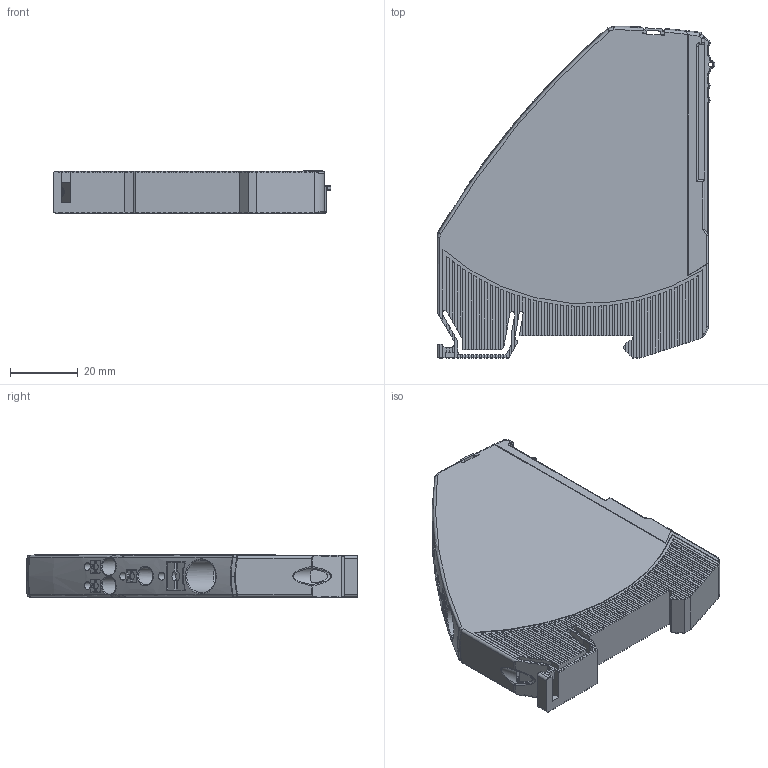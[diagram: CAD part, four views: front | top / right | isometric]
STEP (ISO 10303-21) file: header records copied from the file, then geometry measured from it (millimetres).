
FILE_DESCRIPTION((''),'2;1');
FILE_NAME('1694-PFA1244_ASM','2020-04-23T09:42:40',('AKuszpe'),('Rockwell Automation'),'CREO PARAMETRIC BY PTC INC, 2017380','CREO PARAMETRIC BY PTC INC, 2017380','');
FILE_SCHEMA(('AUTOMOTIVE_DESIGN { 1 0 10303 214 1 1 1 1 }'));
Length unit declared in the file: millimetre
Products named in the file (2): 1694-PFA1244; 1694-PFA1244_ASM
Assembly tree (1 placements, depth 2):
  1694-PFA1244_ASM
    1694-PFA1244
Bounding box: 81.9 x 97.95 x 12.4 mm (x, y, z)
Volume: 70904.5 mm3; surface area: 19854.3 mm2
Topology: 1 solids, 1 shells, 1038 faces, 3007 edges, 1972 vertices
Faces by surface type: plane 691, cylinder 234, bspline 65, torus 36, sphere 9, cone 2, extrusion 1
Entity records: 49937 total; most frequent: CARTESIAN_POINT 12497, ORIENTED_EDGE 5992, DIRECTION 5264, PRESENTATION_STYLE_ASSIGNMENT 3142, STYLED_ITEM 2997, CURVE_STYLE 2996, EDGE_CURVE 2996, VECTOR 2196
